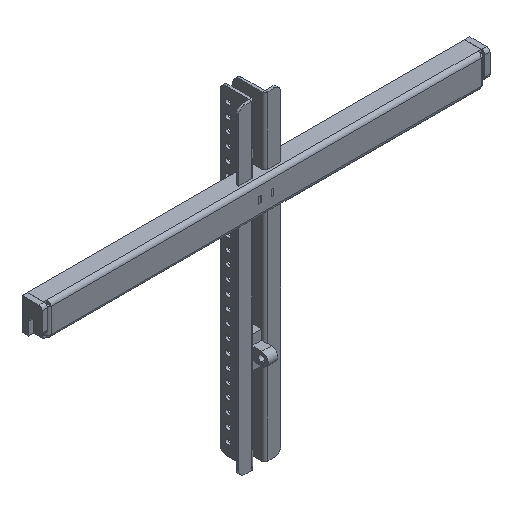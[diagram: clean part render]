
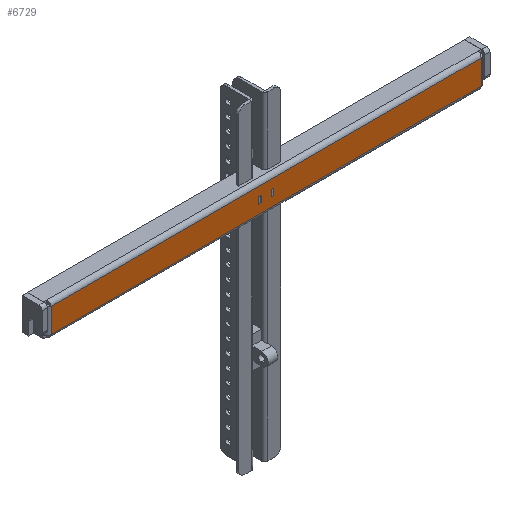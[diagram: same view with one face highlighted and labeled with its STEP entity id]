
A CAD part, isometric view. The second image highlights one B-rep face of the part: STEP entity #6729.
In plain terms, the highlighted planar face has unit normal (0, -1, 0).
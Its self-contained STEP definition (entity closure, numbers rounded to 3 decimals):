
#189 = EDGE_CURVE ( 'NONE', #4891, #4887, #448, .T. ) ;
#234 = EDGE_CURVE ( 'NONE', #4985, #4891, #544, .T. ) ;
#448 = LINE ( 'NONE', #5871, #467 ) ;
#467 = VECTOR ( 'NONE', #5853, 1000. ) ;
#541 = VECTOR ( 'NONE', #5957, 1000. ) ;
#544 = LINE ( 'NONE', #5939, #541 ) ;
#1370 = ORIENTED_EDGE ( 'NONE', *, *, #2821, .F. ) ;
#1371 = ORIENTED_EDGE ( 'NONE', *, *, #2822, .F. ) ;
#1372 = ORIENTED_EDGE ( 'NONE', *, *, #2843, .F. ) ;
#1377 = ORIENTED_EDGE ( 'NONE', *, *, #2827, .F. ) ;
#1378 = ORIENTED_EDGE ( 'NONE', *, *, #2837, .F. ) ;
#1398 = ORIENTED_EDGE ( 'NONE', *, *, #2787, .T. ) ;
#1405 = ORIENTED_EDGE ( 'NONE', *, *, #189, .T. ) ;
#1410 = ORIENTED_EDGE ( 'NONE', *, *, #2845, .T. ) ;
#1412 = ORIENTED_EDGE ( 'NONE', *, *, #2816, .F. ) ;
#1419 = ORIENTED_EDGE ( 'NONE', *, *, #2806, .F. ) ;
#1422 = ORIENTED_EDGE ( 'NONE', *, *, #234, .T. ) ;
#1423 = ORIENTED_EDGE ( 'NONE', *, *, #2852, .F. ) ;
#2787 = EDGE_CURVE ( 'NONE', #4952, #4985, #3379, .T. ) ;
#2806 = EDGE_CURVE ( 'NONE', #5027, #5039, #3366, .T. ) ;
#2816 = EDGE_CURVE ( 'NONE', #5039, #5001, #3371, .T. ) ;
#2821 = EDGE_CURVE ( 'NONE', #5049, #5053, #3462, .T. ) ;
#2822 = EDGE_CURVE ( 'NONE', #5040, #5027, #3429, .T. ) ;
#2827 = EDGE_CURVE ( 'NONE', #5038, #5049, #3461, .T. ) ;
#2837 = EDGE_CURVE ( 'NONE', #5029, #5038, #3408, .T. ) ;
#2843 = EDGE_CURVE ( 'NONE', #5001, #5040, #3416, .T. ) ;
#2845 = EDGE_CURVE ( 'NONE', #4887, #4952, #3425, .T. ) ;
#2852 = EDGE_CURVE ( 'NONE', #5053, #5029, #3453, .T. ) ;
#3366 = LINE ( 'NONE', #6406, #3406 ) ;
#3371 = LINE ( 'NONE', #6374, #3377 ) ;
#3377 = VECTOR ( 'NONE', #6449, 1000. ) ;
#3379 = LINE ( 'NONE', #6320, #3387 ) ;
#3387 = VECTOR ( 'NONE', #6317, 1000. ) ;
#3406 = VECTOR ( 'NONE', #6408, 1000. ) ;
#3408 = LINE ( 'NONE', #6472, #3415 ) ;
#3410 = VECTOR ( 'NONE', #6459, 1000. ) ;
#3415 = VECTOR ( 'NONE', #6486, 1000. ) ;
#3416 = LINE ( 'NONE', #6518, #3417 ) ;
#3417 = VECTOR ( 'NONE', #6510, 1000. ) ;
#3425 = LINE ( 'NONE', #6529, #3446 ) ;
#3427 = VECTOR ( 'NONE', #6420, 1000. ) ;
#3429 = LINE ( 'NONE', #6432, #3447 ) ;
#3446 = VECTOR ( 'NONE', #6542, 1000. ) ;
#3447 = VECTOR ( 'NONE', #6433, 1000. ) ;
#3453 = LINE ( 'NONE', #6540, #3470 ) ;
#3461 = LINE ( 'NONE', #6445, #3410 ) ;
#3462 = LINE ( 'NONE', #6437, #3427 ) ;
#3470 = VECTOR ( 'NONE', #6522, 1000. ) ;
#3897 = EDGE_LOOP ( 'NONE', ( #1371, #1372, #1412, #1419 ) ) ;
#3898 = EDGE_LOOP ( 'NONE', ( #1377, #1378, #1423, #1370 ) ) ;
#3917 = EDGE_LOOP ( 'NONE', ( #1410, #1398, #1422, #1405 ) ) ;
#4309 = FACE_BOUND ( 'NONE', #3897, .T. ) ;
#4310 = FACE_OUTER_BOUND ( 'NONE', #3917, .T. ) ;
#4311 = FACE_BOUND ( 'NONE', #3898, .T. ) ;
#4887 = VERTEX_POINT ( 'NONE', #9433 ) ;
#4891 = VERTEX_POINT ( 'NONE', #9455 ) ;
#4952 = VERTEX_POINT ( 'NONE', #9472 ) ;
#4985 = VERTEX_POINT ( 'NONE', #9540 ) ;
#5001 = VERTEX_POINT ( 'NONE', #9588 ) ;
#5027 = VERTEX_POINT ( 'NONE', #9591 ) ;
#5029 = VERTEX_POINT ( 'NONE', #9598 ) ;
#5038 = VERTEX_POINT ( 'NONE', #9593 ) ;
#5039 = VERTEX_POINT ( 'NONE', #9637 ) ;
#5040 = VERTEX_POINT ( 'NONE', #9594 ) ;
#5049 = VERTEX_POINT ( 'NONE', #9633 ) ;
#5053 = VERTEX_POINT ( 'NONE', #9600 ) ;
#5853 = DIRECTION ( 'NONE',  ( 0., 0., 1. ) ) ;
#5871 = CARTESIAN_POINT ( 'NONE',  ( 336., 0., -45.293 ) ) ;
#5939 = CARTESIAN_POINT ( 'NONE',  ( -337.293, 0., -44. ) ) ;
#5957 = DIRECTION ( 'NONE',  ( 1., 0., 0. ) ) ;
#6317 = DIRECTION ( 'NONE',  ( 0., 0., -1. ) ) ;
#6320 = CARTESIAN_POINT ( 'NONE',  ( -336., 0., -4.707 ) ) ;
#6374 = CARTESIAN_POINT ( 'NONE',  ( -342., 0., -30. ) ) ;
#6406 = CARTESIAN_POINT ( 'NONE',  ( 7.9, 0., -50. ) ) ;
#6408 = DIRECTION ( 'NONE',  ( 0., 0., -1. ) ) ;
#6420 = DIRECTION ( 'NONE',  ( 1., 0., 0. ) ) ;
#6432 = CARTESIAN_POINT ( 'NONE',  ( -342., 0., -20. ) ) ;
#6433 = DIRECTION ( 'NONE',  ( -1., 0., 0. ) ) ;
#6437 = CARTESIAN_POINT ( 'NONE',  ( -342., 0., -30. ) ) ;
#6445 = CARTESIAN_POINT ( 'NONE',  ( -12.1, 0., -50. ) ) ;
#6449 = DIRECTION ( 'NONE',  ( 1., 0., 0. ) ) ;
#6459 = DIRECTION ( 'NONE',  ( 0., 0., -1. ) ) ;
#6472 = CARTESIAN_POINT ( 'NONE',  ( -342., 0., -20. ) ) ;
#6486 = DIRECTION ( 'NONE',  ( -1., 0., 0. ) ) ;
#6510 = DIRECTION ( 'NONE',  ( 0., 0., 1. ) ) ;
#6518 = CARTESIAN_POINT ( 'NONE',  ( 12.1, 0., -50. ) ) ;
#6522 = DIRECTION ( 'NONE',  ( 0., 0., 1. ) ) ;
#6529 = CARTESIAN_POINT ( 'NONE',  ( 337.293, 0., -6. ) ) ;
#6540 = CARTESIAN_POINT ( 'NONE',  ( -7.9, 0., -50. ) ) ;
#6542 = DIRECTION ( 'NONE',  ( -1., 0., 0. ) ) ;
#6729 = ADVANCED_FACE ( 'NONE', ( #4309, #4311, #4310 ), #10478, .T. ) ;
#8175 = AXIS2_PLACEMENT_3D ( 'NONE', #10479, #10491, #10506 ) ;
#9433 = CARTESIAN_POINT ( 'NONE',  ( 336., 0., -6. ) ) ;
#9455 = CARTESIAN_POINT ( 'NONE',  ( 336., 0., -44. ) ) ;
#9472 = CARTESIAN_POINT ( 'NONE',  ( -336., 0., -6. ) ) ;
#9540 = CARTESIAN_POINT ( 'NONE',  ( -336., 0., -44. ) ) ;
#9588 = CARTESIAN_POINT ( 'NONE',  ( 12.1, 0., -30. ) ) ;
#9591 = CARTESIAN_POINT ( 'NONE',  ( 7.9, 0., -20. ) ) ;
#9593 = CARTESIAN_POINT ( 'NONE',  ( -12.1, 0., -20. ) ) ;
#9594 = CARTESIAN_POINT ( 'NONE',  ( 12.1, 0., -20. ) ) ;
#9598 = CARTESIAN_POINT ( 'NONE',  ( -7.9, 0., -20. ) ) ;
#9600 = CARTESIAN_POINT ( 'NONE',  ( -7.9, 0., -30. ) ) ;
#9633 = CARTESIAN_POINT ( 'NONE',  ( -12.1, 0., -30. ) ) ;
#9637 = CARTESIAN_POINT ( 'NONE',  ( 7.9, 0., -30. ) ) ;
#10478 = PLANE ( 'NONE',  #8175 ) ;
#10479 = CARTESIAN_POINT ( 'NONE',  ( -342., 0., -50. ) ) ;
#10491 = DIRECTION ( 'NONE',  ( 0., -1., 0. ) ) ;
#10506 = DIRECTION ( 'NONE',  ( 0., 0., -1. ) ) ;
